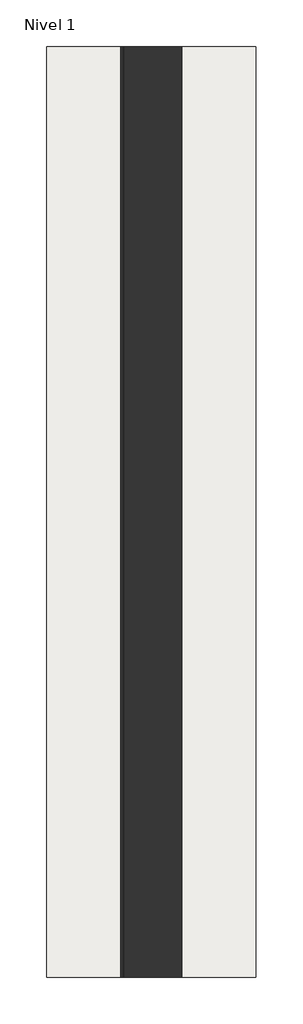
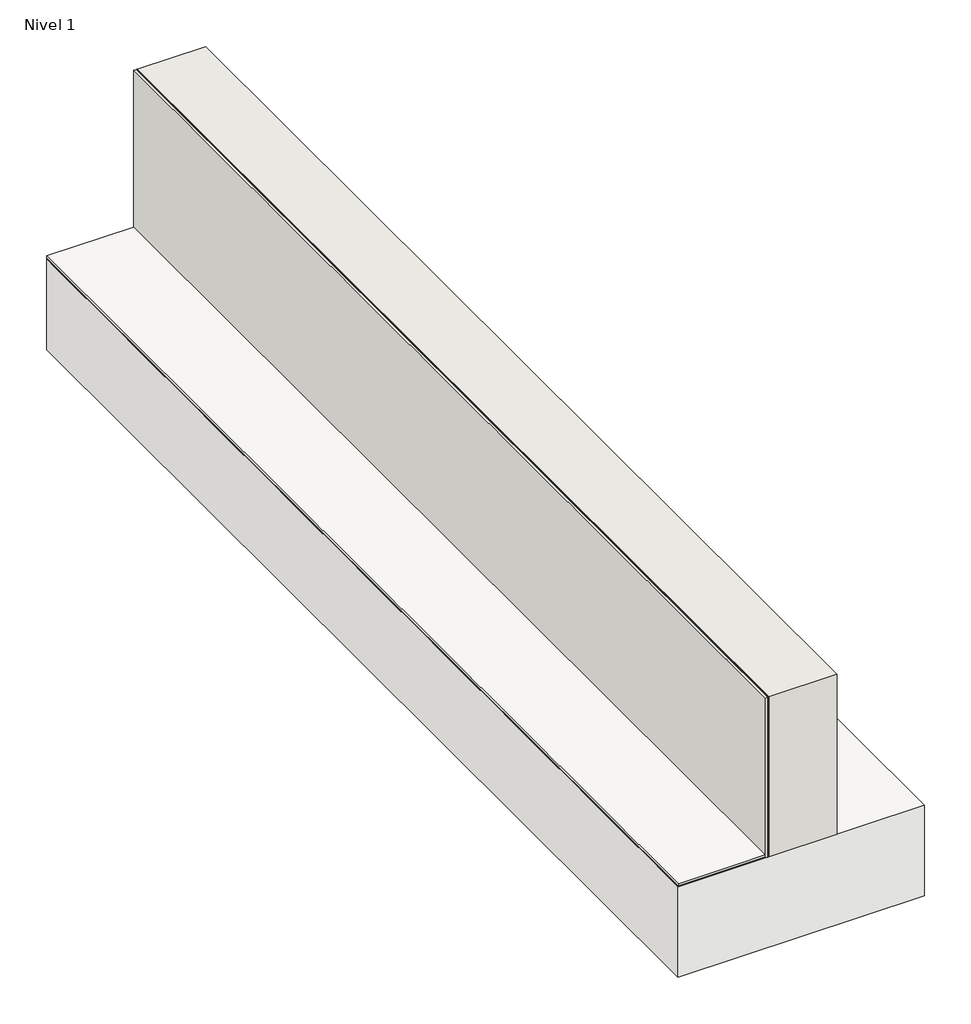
# One storey: 1 footing, 1 slab, 1 wall.
"""IFC4 building model written with IfcOpenShell, lengths in millimetres."""

from ifc_helpers import new_model, si_unit, frame, origin, place, context, project, spatial, polyline, outline, extrude, element, save

model = new_model("IFC4")

# Units and contexts
model_context = context("Model", 3, world=origin())
ifc_project = project(units=[si_unit("LENGTHUNIT", "METRE", prefix="MILLI")], contexts=[model_context])

# Site, building, storey
site = spatial("IfcSite", under=ifc_project)
building = spatial("IfcBuilding", under=site)
storey = spatial("IfcBuildingStorey", under=building, Name="Nivel 1", Elevation=0.0)

# Footing
placement = place(None, origin())
element("IfcFooting", 1, ObjectType="ZapataCorrida", at=placement, inside=storey, context=model_context, shape_type="SweptSolid", body=[
    extrude(outline(polyline([(-7054.9527165, 913.1571083), (-6154.9527165, 913.1571083), (-6154.9527165, -3086.8428917), (-7054.9527165, -3086.8428917), (-7054.9527165, 913.1571083)])), frame((0.0, 0.0, 272.0733708), z_axis=(0.0, 0.0, 1.0), x_axis=(1.0, 0.0, 0.0)), (0.0, 0.0, 1.0), 350.0),
])

# Slab
element("IfcSlab", 2, ObjectType="EstructurasEnterradas-SinAislamiento_Muros_M_3", at=placement, inside=storey, context=model_context, shape_type="SweptSolid", body=[
    extrude(outline(polyline([(-6736.0315969, 913.1571083), (-6736.0315969, -3086.8428917), (-7054.6402165, -3086.8428917), (-7054.6402165, 913.1571083), (-6736.0315969, 913.1571083)])), frame((0.0, 0.0, 626.0625), z_axis=(0.0, 0.0, 1.0), x_axis=(1.0, 0.0, 0.0)), (0.0, 0.0, 1.0), 8.0),
    extrude(outline(polyline([(-6736.0315969, 913.1571083), (-6736.0315969, -3086.8428917), (-7054.6402165, -3086.8428917), (-7054.6402165, 913.1571083), (-6736.0315969, 913.1571083)])), frame((0.0, 0.0, 624.0625), z_axis=(0.0, 0.0, 1.0), x_axis=(1.0, 0.0, 0.0)), (0.0, 0.0, 1.0), 2.0),
    extrude(outline(polyline([(-6736.0315969, 913.1571083), (-6736.0315969, -3086.8428917), (-7054.6402165, -3086.8428917), (-7054.6402165, 913.1571083), (-6736.0315969, 913.1571083)])), frame((0.0, 0.0, 622.0625), z_axis=(0.0, 0.0, 1.0), x_axis=(1.0, 0.0, 0.0)), (0.0, 0.0, 1.0), 2.0),
])

# Wall
element("IfcWall", 3, ObjectType="EstructurasEnterradas-SinAislamiento_Muros_M_3", at=placement, inside=storey, context=model_context, shape_type="SweptSolid", body=[
    extrude(outline(polyline([(-6735.9527165, -3086.8428917), (-6735.9527165, 913.1571083), (-6727.9527165, 913.1571083), (-6727.9527165, -3086.8428917), (-6735.9527165, -3086.8428917)])), frame((0.0, 0.0, 622.0733708), z_axis=(0.0, 0.0, 1.0), x_axis=(1.0, 0.0, 0.0)), (0.0, 0.0, 1.0), 617.9266292),
    extrude(outline(polyline([(-6727.9527165, 913.1571083), (-6725.9527165, 913.1571083), (-6725.9527165, -3086.8428917), (-6727.9527165, -3086.8428917), (-6727.9527165, 913.1571083)])), frame((0.0, 0.0, 622.0733708), z_axis=(0.0, 0.0, 1.0), x_axis=(1.0, 0.0, 0.0)), (0.0, 0.0, 1.0), 617.9266292),
    extrude(outline(polyline([(-6725.9527165, 913.1571083), (-6723.9527165, 913.1571083), (-6723.9527165, -3086.8428917), (-6725.9527165, -3086.8428917), (-6725.9527165, 913.1571083)])), frame((0.0, 0.0, 622.0733708), z_axis=(0.0, 0.0, 1.0), x_axis=(1.0, 0.0, 0.0)), (0.0, 0.0, 1.0), 617.9266292),
    extrude(outline(polyline([(-6473.9527165, 913.1571083), (-6473.9527165, -3086.8428917), (-6723.9527165, -3086.8428917), (-6723.9527165, 913.1571083), (-6473.9527165, 913.1571083)])), frame((0.0, 0.0, 622.0733708), z_axis=(0.0, 0.0, 1.0), x_axis=(1.0, 0.0, 0.0)), (0.0, 0.0, 1.0), 617.9266292),
])

save(model, "model.ifc")
